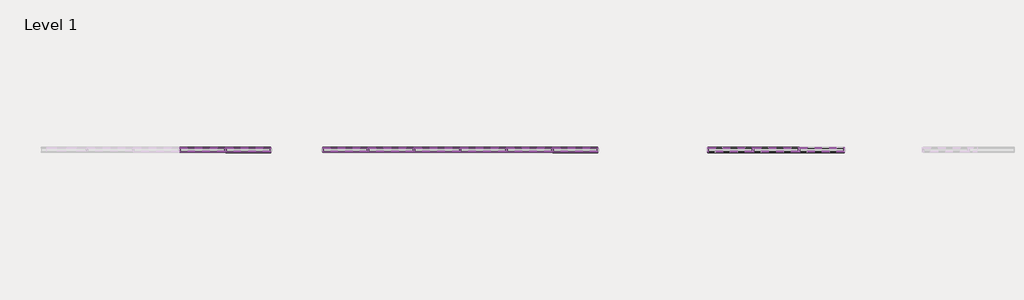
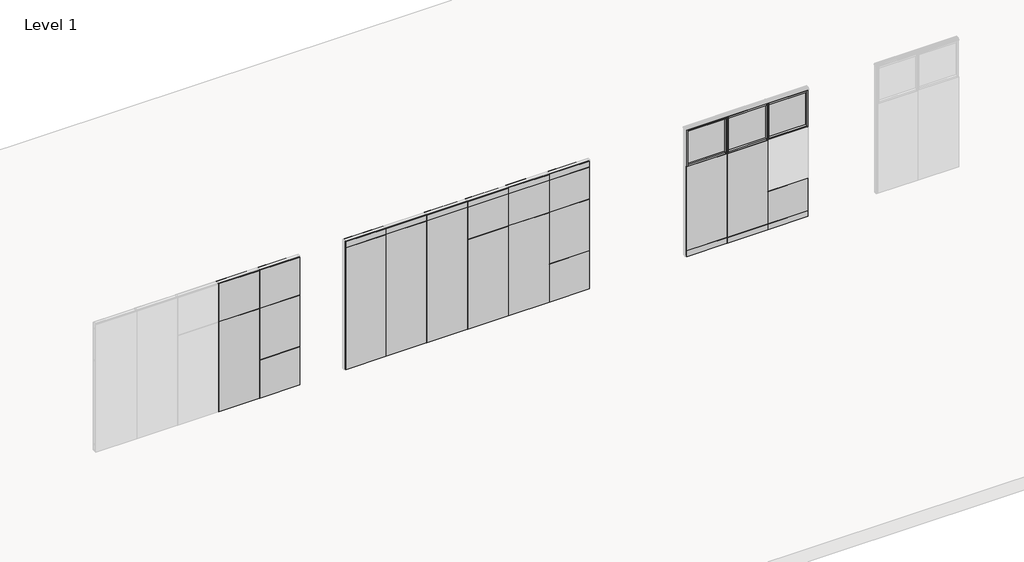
# One storey, part 16 of 22: 102 proxies.
"""IFC4 building model written with IfcOpenShell, lengths in millimetres."""

from ifc_helpers import new_model, si_unit, origin, place, context, project, spatial, transform, mapped, element, save
from components import specialty_equipment_a7725fb8, specialty_equipment_a37d2f72, fascia_teknion_ceiling_and_base_fpb1_53cd2d31, fascia_teknion_ceiling_and_base_fpb1_16c273a4, fascia_teknion_ceiling_and_base_fpb1_d476be8e, fascia_teknion_ceiling_and_base_fpb1_8e12d95e, fascia_teknion_ceiling_and_base_fpb1_b9f04170, fascia_teknion_ceiling_and_base_fpb1_0bfeef01, fascia_teknion_ceiling_and_base_fpb1_707b8d37, fascia_teknion_ceiling_and_base_fpb1_816009f4, frame_teknion_horizontal_rail_5872ae1a, frame_teknion_horizontal_rail_46ee653b, level_ii_d92933f0, level_ii_5838736d, level_ii_d9937d3a, level_ii_09c6d2e8, level_ii_766fe766, level_ii_d745e7d9, monolithic_level_i_8bdc6454, monolithic_level_i_0d422da3, monolithic_level_i_5bb2e6cc, panel_fascia_teknion_clerestory_base_fascia_level_i_78e5e170, panel_fascia_teknion_clerestory_base_fascia_level_i_735a874c, panel_fascia_teknion_clerestory_base_fascia_level_ii_e9959047, panel_fascia_teknion_clerestory_base_fascia_segmented_level_73441add, panel_fascia_teknion_clerestory_base_fascia_segmented_level_e8cfd076, panel_fascia_teknion_clerestory_base_fascia_segmented_level_bd308c10, segmented_monolithic_level_i_26a9d159, segmented_monolithic_level_i_79c8b360, segmented_monolithic_level_i_954095a9, segmented_monolithic_level_ii_ef75357c, segmented_monolithic_level_ii_44e4ae8f, segmented_monolithic_level_ii_9478e5b5, working_wall_monolithic_level_i_759ace73, working_wall_monolithic_level_i_f3196e79, working_wall_monolithic_level_i_53c92298, working_wall_monolithic_level_i_9d4bea93, working_wall_monolithic_level_i_ddf61f7f, working_wall_monolithic_level_i_49ea217e, segmented_monolithic_level_ii_062cb124, working_wall_monolithic_level_iii_b79156b4, working_wall_monolithic_level_iii_e35548a4, working_wall_monolithic_level_iii_fa76c758, working_wall_monolithic_level_iii_031ea846

model = new_model("IFC4")

# Units and contexts
model_context = context("Model", 3, world=origin())
ifc_project = project(units=[si_unit("LENGTHUNIT", "METRE", prefix="MILLI")], contexts=[model_context])

# Site, building, storey
site = spatial("IfcSite", under=ifc_project)
building = spatial("IfcBuilding", under=site)
storey = spatial("IfcBuildingStorey", under=building, Name="Level 1", Elevation=0.0)

# Proxies
placement = place(None, origin())
specialty_equipment_shape = specialty_equipment_a7725fb8(model_context)
element("IfcBuildingElementProxy", 1, Name="Panel-Clerestory-Teknion-Optos-Altos_Monolithic_Fascias : FYCG", ObjectType="Panel-Clerestory-Teknion-Optos-Altos_Monolithic_Fascias : FYCG", at=placement, inside=storey, context=model_context, shape_type="MappedRepresentation", body=[
    mapped(specialty_equipment_shape, transform((72474.5023007, 1812.3522105, 2136.775), x_axis=(1.0, 0.0, 0.0), y_axis=(0.0, 1.0, 0.0), z_axis=(0.0, 0.0, 1.0))),
])
element("IfcBuildingElementProxy", 2, Name="Panel-Clerestory-Teknion-Optos-Altos_Monolithic_Fascias : FYCG", ObjectType="Panel-Clerestory-Teknion-Optos-Altos_Monolithic_Fascias : FYCG", at=placement, inside=storey, context=model_context, shape_type="MappedRepresentation", body=[
    mapped(specialty_equipment_shape, transform((74289.312457, 1812.3522105, 2136.775), x_axis=(1.0, 0.0, 0.0), y_axis=(0.0, 1.0, 0.0), z_axis=(0.0, 0.0, 1.0))),
])
specialty_equipment_2_shape = specialty_equipment_a37d2f72(model_context)
element("IfcBuildingElementProxy", 3, Name="Panel-Clerestory-Teknion-Optos-Altos_Monolithic_Fascias : FYCG", ObjectType="Panel-Clerestory-Teknion-Optos-Altos_Monolithic_Fascias : FYCG", at=placement, inside=storey, context=model_context, shape_type="MappedRepresentation", body=[
    mapped(specialty_equipment_2_shape, transform((73381.9073788, 1812.3522105, 2136.775), x_axis=(1.0, 0.0, 0.0), y_axis=(0.0, 1.0, 0.0), z_axis=(0.0, 0.0, 1.0))),
])
fascia_teknion_ceiling_and_base_fpb1_shape = fascia_teknion_ceiling_and_base_fpb1_53cd2d31(model_context)
element("IfcBuildingElementProxy", 4, Name="Fascia-Teknion-Ceiling_and_Base : FPB1", ObjectType="Fascia-Teknion-Ceiling_and_Base : FPB1", at=placement, inside=storey, context=model_context, shape_type="MappedRepresentation", body=[
    mapped(fascia_teknion_ceiling_and_base_fpb1_shape, transform((72474.5023007, 1781.3642105, 15.875), x_axis=(1.0, 0.0, 0.0), y_axis=(0.0, 1.0, 0.0), z_axis=(0.0, 0.0, 1.0))),
])
element("IfcBuildingElementProxy", 5, Name="Fascia-Teknion-Ceiling_and_Base : FPB1", ObjectType="Fascia-Teknion-Ceiling_and_Base : FPB1", at=placement, inside=storey, context=model_context, shape_type="MappedRepresentation", body=[
    mapped(fascia_teknion_ceiling_and_base_fpb1_shape, transform((74289.312457, 1781.3642105, 15.875), x_axis=(1.0, 0.0, 0.0), y_axis=(0.0, 1.0, 0.0), z_axis=(0.0, 0.0, 1.0))),
])
fascia_teknion_ceiling_and_base_fpb1_2_shape = fascia_teknion_ceiling_and_base_fpb1_16c273a4(model_context)
element("IfcBuildingElementProxy", 6, Name="Fascia-Teknion-Ceiling_and_Base : FPB1", ObjectType="Fascia-Teknion-Ceiling_and_Base : FPB1", at=placement, inside=storey, context=model_context, shape_type="MappedRepresentation", body=[
    mapped(fascia_teknion_ceiling_and_base_fpb1_2_shape, transform((72474.5023007, 1843.3402105, 15.875), x_axis=(1.0, 0.0, 0.0), y_axis=(0.0, 1.0, 0.0), z_axis=(0.0, 0.0, 1.0))),
])
element("IfcBuildingElementProxy", 7, Name="Fascia-Teknion-Ceiling_and_Base : FPB1", ObjectType="Fascia-Teknion-Ceiling_and_Base : FPB1", at=placement, inside=storey, context=model_context, shape_type="MappedRepresentation", body=[
    mapped(fascia_teknion_ceiling_and_base_fpb1_2_shape, transform((74289.312457, 1843.3402105, 15.875), x_axis=(1.0, 0.0, 0.0), y_axis=(0.0, 1.0, 0.0), z_axis=(0.0, 0.0, 1.0))),
])
fascia_teknion_ceiling_and_base_fpb1_3_shape = fascia_teknion_ceiling_and_base_fpb1_d476be8e(model_context)
element("IfcBuildingElementProxy", 8, Name="Fascia-Teknion-Ceiling_and_Base : FPB1", ObjectType="Fascia-Teknion-Ceiling_and_Base : FPB1", at=placement, inside=storey, context=model_context, shape_type="MappedRepresentation", body=[
    mapped(fascia_teknion_ceiling_and_base_fpb1_3_shape, transform((73381.9073788, 1781.3642105, 15.875), x_axis=(1.0, 0.0, 0.0), y_axis=(0.0, 1.0, 0.0), z_axis=(0.0, 0.0, 1.0))),
])
fascia_teknion_ceiling_and_base_fpb1_4_shape = fascia_teknion_ceiling_and_base_fpb1_8e12d95e(model_context)
element("IfcBuildingElementProxy", 9, Name="Fascia-Teknion-Ceiling_and_Base : FPB1", ObjectType="Fascia-Teknion-Ceiling_and_Base : FPB1", at=placement, inside=storey, context=model_context, shape_type="MappedRepresentation", body=[
    mapped(fascia_teknion_ceiling_and_base_fpb1_4_shape, transform((73381.9073788, 1843.3402105, 15.875), x_axis=(1.0, 0.0, 0.0), y_axis=(0.0, 1.0, 0.0), z_axis=(0.0, 0.0, 1.0))),
])
fascia_teknion_ceiling_and_base_fpb1_5_shape = fascia_teknion_ceiling_and_base_fpb1_b9f04170(model_context)
element("IfcBuildingElementProxy", 10, Name="Fascia-Teknion-Ceiling_and_Base : FPC", ObjectType="Fascia-Teknion-Ceiling_and_Base : FPC", at=placement, inside=storey, context=model_context, shape_type="MappedRepresentation", body=[
    mapped(fascia_teknion_ceiling_and_base_fpb1_5_shape, transform((64843.799497, 1781.3642105, 2900.045), x_axis=(1.0, 0.0, 0.0), y_axis=(0.0, 1.0, 0.0), z_axis=(0.0, 0.0, 1.0))),
])
element("IfcBuildingElementProxy", 11, Name="Fascia-Teknion-Ceiling_and_Base : FPC", ObjectType="Fascia-Teknion-Ceiling_and_Base : FPC", at=placement, inside=storey, context=model_context, shape_type="MappedRepresentation", body=[
    mapped(fascia_teknion_ceiling_and_base_fpb1_5_shape, transform((69401.8096533, 1781.3642105, 2900.045), x_axis=(1.0, 0.0, 0.0), y_axis=(0.0, 1.0, 0.0), z_axis=(0.0, 0.0, 1.0))),
])
fascia_teknion_ceiling_and_base_fpb1_6_shape = fascia_teknion_ceiling_and_base_fpb1_0bfeef01(model_context)
element("IfcBuildingElementProxy", 12, Name="Fascia-Teknion-Ceiling_and_Base : FPC", ObjectType="Fascia-Teknion-Ceiling_and_Base : FPC", at=placement, inside=storey, context=model_context, shape_type="MappedRepresentation", body=[
    mapped(fascia_teknion_ceiling_and_base_fpb1_6_shape, transform((64843.799497, 1843.3402105, 2900.045), x_axis=(1.0, 0.0, 0.0), y_axis=(0.0, 1.0, 0.0), z_axis=(0.0, 0.0, 1.0))),
])
element("IfcBuildingElementProxy", 13, Name="Fascia-Teknion-Ceiling_and_Base : FPC", ObjectType="Fascia-Teknion-Ceiling_and_Base : FPC", at=placement, inside=storey, context=model_context, shape_type="MappedRepresentation", body=[
    mapped(fascia_teknion_ceiling_and_base_fpb1_6_shape, transform((69401.8096533, 1843.3402105, 2900.045), x_axis=(1.0, 0.0, 0.0), y_axis=(0.0, 1.0, 0.0), z_axis=(0.0, 0.0, 1.0))),
])
fascia_teknion_ceiling_and_base_fpb1_7_shape = fascia_teknion_ceiling_and_base_fpb1_707b8d37(model_context)
element("IfcBuildingElementProxy", 14, Name="Fascia-Teknion-Ceiling_and_Base : FPC", ObjectType="Fascia-Teknion-Ceiling_and_Base : FPC", at=placement, inside=storey, context=model_context, shape_type="MappedRepresentation", body=[
    mapped(fascia_teknion_ceiling_and_base_fpb1_7_shape, transform((65751.2045751, 1781.3642105, 2900.045), x_axis=(1.0, 0.0, 0.0), y_axis=(0.0, 1.0, 0.0), z_axis=(0.0, 0.0, 1.0))),
])
element("IfcBuildingElementProxy", 15, Name="Fascia-Teknion-Ceiling_and_Base : FPC", ObjectType="Fascia-Teknion-Ceiling_and_Base : FPC", at=placement, inside=storey, context=model_context, shape_type="MappedRepresentation", body=[
    mapped(fascia_teknion_ceiling_and_base_fpb1_7_shape, transform((66665.6045751, 1781.3642105, 2900.045), x_axis=(1.0, 0.0, 0.0), y_axis=(0.0, 1.0, 0.0), z_axis=(0.0, 0.0, 1.0))),
])
element("IfcBuildingElementProxy", 16, Name="Fascia-Teknion-Ceiling_and_Base : FPC", ObjectType="Fascia-Teknion-Ceiling_and_Base : FPC", at=placement, inside=storey, context=model_context, shape_type="MappedRepresentation", body=[
    mapped(fascia_teknion_ceiling_and_base_fpb1_7_shape, transform((67580.0045751, 1781.3642105, 2900.045), x_axis=(1.0, 0.0, 0.0), y_axis=(0.0, 1.0, 0.0), z_axis=(0.0, 0.0, 1.0))),
])
element("IfcBuildingElementProxy", 17, Name="Fascia-Teknion-Ceiling_and_Base : FPC", ObjectType="Fascia-Teknion-Ceiling_and_Base : FPC", at=placement, inside=storey, context=model_context, shape_type="MappedRepresentation", body=[
    mapped(fascia_teknion_ceiling_and_base_fpb1_7_shape, transform((68494.4045751, 1781.3642105, 2900.045), x_axis=(1.0, 0.0, 0.0), y_axis=(0.0, 1.0, 0.0), z_axis=(0.0, 0.0, 1.0))),
])
fascia_teknion_ceiling_and_base_fpb1_8_shape = fascia_teknion_ceiling_and_base_fpb1_816009f4(model_context)
element("IfcBuildingElementProxy", 18, Name="Fascia-Teknion-Ceiling_and_Base : FPC", ObjectType="Fascia-Teknion-Ceiling_and_Base : FPC", at=placement, inside=storey, context=model_context, shape_type="MappedRepresentation", body=[
    mapped(fascia_teknion_ceiling_and_base_fpb1_8_shape, transform((65751.2045751, 1843.3402105, 2900.045), x_axis=(1.0, 0.0, 0.0), y_axis=(0.0, 1.0, 0.0), z_axis=(0.0, 0.0, 1.0))),
])
element("IfcBuildingElementProxy", 19, Name="Fascia-Teknion-Ceiling_and_Base : FPC", ObjectType="Fascia-Teknion-Ceiling_and_Base : FPC", at=placement, inside=storey, context=model_context, shape_type="MappedRepresentation", body=[
    mapped(fascia_teknion_ceiling_and_base_fpb1_8_shape, transform((67580.0045751, 1843.3402105, 2900.045), x_axis=(1.0, 0.0, 0.0), y_axis=(0.0, 1.0, 0.0), z_axis=(0.0, 0.0, 1.0))),
])
element("IfcBuildingElementProxy", 20, Name="Fascia-Teknion-Ceiling_and_Base : FPC", ObjectType="Fascia-Teknion-Ceiling_and_Base : FPC", at=placement, inside=storey, context=model_context, shape_type="MappedRepresentation", body=[
    mapped(fascia_teknion_ceiling_and_base_fpb1_8_shape, transform((66665.6045751, 1843.3402105, 2900.045), x_axis=(1.0, 0.0, 0.0), y_axis=(0.0, 1.0, 0.0), z_axis=(0.0, 0.0, 1.0))),
])
element("IfcBuildingElementProxy", 21, Name="Fascia-Teknion-Ceiling_and_Base : FPC", ObjectType="Fascia-Teknion-Ceiling_and_Base : FPC", at=placement, inside=storey, context=model_context, shape_type="MappedRepresentation", body=[
    mapped(fascia_teknion_ceiling_and_base_fpb1_8_shape, transform((68494.4045751, 1843.3402105, 2900.045), x_axis=(1.0, 0.0, 0.0), y_axis=(0.0, 1.0, 0.0), z_axis=(0.0, 0.0, 1.0))),
])
frame_teknion_horizontal_rail_shape = frame_teknion_horizontal_rail_5872ae1a(model_context)
element("IfcBuildingElementProxy", 22, Name="Frame-Teknion-Horizontal_Rail : FPKK", ObjectType="Frame-Teknion-Horizontal_Rail : FPKK", at=placement, inside=storey, context=model_context, shape_type="MappedRepresentation", body=[
    mapped(frame_teknion_horizontal_rail_shape, transform((64843.799497, 1812.3522105, 2898.3305), x_axis=(1.0, 0.0, 0.0), y_axis=(0.0, 1.0, 0.0), z_axis=(0.0, 0.0, 1.0))),
])
element("IfcBuildingElementProxy", 23, Name="Frame-Teknion-Horizontal_Rail : FPKK", ObjectType="Frame-Teknion-Horizontal_Rail : FPKK", at=placement, inside=storey, context=model_context, shape_type="MappedRepresentation", body=[
    mapped(frame_teknion_horizontal_rail_shape, transform((69401.8096533, 1812.3522105, 917.575), x_axis=(1.0, 0.0, 0.0), y_axis=(0.0, 1.0, 0.0), z_axis=(0.0, 0.0, 1.0))),
])
element("IfcBuildingElementProxy", 24, Name="Frame-Teknion-Horizontal_Rail : FPKK", ObjectType="Frame-Teknion-Horizontal_Rail : FPKK", at=placement, inside=storey, context=model_context, shape_type="MappedRepresentation", body=[
    mapped(frame_teknion_horizontal_rail_shape, transform((69401.8096533, 1812.3522105, 2898.3305), x_axis=(1.0, 0.0, 0.0), y_axis=(0.0, 1.0, 0.0), z_axis=(0.0, 0.0, 1.0))),
])
element("IfcBuildingElementProxy", 25, Name="Frame-Teknion-Horizontal_Rail : FPKK", ObjectType="Frame-Teknion-Horizontal_Rail : FPKK", at=placement, inside=storey, context=model_context, shape_type="MappedRepresentation", body=[
    mapped(frame_teknion_horizontal_rail_shape, transform((69401.8096533, 1812.3522105, 2136.775), x_axis=(1.0, 0.0, 0.0), y_axis=(0.0, 1.0, 0.0), z_axis=(0.0, 0.0, 1.0))),
])
element("IfcBuildingElementProxy", 26, Name="Frame-Teknion-Horizontal_Rail : FPKK", ObjectType="Frame-Teknion-Horizontal_Rail : FPKK", at=placement, inside=storey, context=model_context, shape_type="MappedRepresentation", body=[
    mapped(frame_teknion_horizontal_rail_shape, transform((64843.799497, 1812.3522105, 151.257), x_axis=(1.0, 0.0, 0.0), y_axis=(0.0, 1.0, 0.0), z_axis=(0.0, 0.0, 1.0))),
])
element("IfcBuildingElementProxy", 27, Name="Frame-Teknion-Horizontal_Rail : FPKK", ObjectType="Frame-Teknion-Horizontal_Rail : FPKK", at=placement, inside=storey, context=model_context, shape_type="MappedRepresentation", body=[
    mapped(frame_teknion_horizontal_rail_shape, transform((69401.8096533, 1812.3522105, 151.257), x_axis=(1.0, 0.0, 0.0), y_axis=(0.0, 1.0, 0.0), z_axis=(0.0, 0.0, 1.0))),
])
element("IfcBuildingElementProxy", 28, Name="Frame-Teknion-Horizontal_Rail : FPKK", ObjectType="Frame-Teknion-Horizontal_Rail : FPKK", at=placement, inside=storey, context=model_context, shape_type="MappedRepresentation", body=[
    mapped(frame_teknion_horizontal_rail_shape, transform((62920.0742944, 1812.3522105, 2136.775), x_axis=(1.0, 0.0, 0.0), y_axis=(0.0, 1.0, 0.0), z_axis=(0.0, 0.0, 1.0))),
])
element("IfcBuildingElementProxy", 29, Name="Frame-Teknion-Horizontal_Rail : FPKK", ObjectType="Frame-Teknion-Horizontal_Rail : FPKK", at=placement, inside=storey, context=model_context, shape_type="MappedRepresentation", body=[
    mapped(frame_teknion_horizontal_rail_shape, transform((62920.0742944, 1812.3522105, 151.257), x_axis=(1.0, 0.0, 0.0), y_axis=(0.0, 1.0, 0.0), z_axis=(0.0, 0.0, 1.0))),
])
element("IfcBuildingElementProxy", 30, Name="Frame-Teknion-Horizontal_Rail : FPKK", ObjectType="Frame-Teknion-Horizontal_Rail : FPKK", at=placement, inside=storey, context=model_context, shape_type="MappedRepresentation", body=[
    mapped(frame_teknion_horizontal_rail_shape, transform((62920.0742944, 1812.3522105, 2898.3305), x_axis=(1.0, 0.0, 0.0), y_axis=(0.0, 1.0, 0.0), z_axis=(0.0, 0.0, 1.0))),
])
element("IfcBuildingElementProxy", 31, Name="Frame-Teknion-Horizontal_Rail : FPKK", ObjectType="Frame-Teknion-Horizontal_Rail : FPKK", at=placement, inside=storey, context=model_context, shape_type="MappedRepresentation", body=[
    mapped(frame_teknion_horizontal_rail_shape, transform((62920.0742944, 1812.3522105, 917.575), x_axis=(1.0, 0.0, 0.0), y_axis=(0.0, 1.0, 0.0), z_axis=(0.0, 0.0, 1.0))),
])
element("IfcBuildingElementProxy", 32, Name="Frame-Teknion-Horizontal_Rail : FPKK", ObjectType="Frame-Teknion-Horizontal_Rail : FPKK", at=placement, inside=storey, context=model_context, shape_type="MappedRepresentation", body=[
    mapped(frame_teknion_horizontal_rail_shape, transform((72474.5023007, 1812.3522105, 2136.775), x_axis=(1.0, 0.0, 0.0), y_axis=(0.0, 1.0, 0.0), z_axis=(0.0, 0.0, 1.0))),
])
element("IfcBuildingElementProxy", 33, Name="Frame-Teknion-Horizontal_Rail : FPKK", ObjectType="Frame-Teknion-Horizontal_Rail : FPKK", at=placement, inside=storey, context=model_context, shape_type="MappedRepresentation", body=[
    mapped(frame_teknion_horizontal_rail_shape, transform((72474.5023007, 1812.3522105, 151.257), x_axis=(1.0, 0.0, 0.0), y_axis=(0.0, 1.0, 0.0), z_axis=(0.0, 0.0, 1.0))),
])
element("IfcBuildingElementProxy", 34, Name="Frame-Teknion-Horizontal_Rail : FPKK", ObjectType="Frame-Teknion-Horizontal_Rail : FPKK", at=placement, inside=storey, context=model_context, shape_type="MappedRepresentation", body=[
    mapped(frame_teknion_horizontal_rail_shape, transform((74289.312457, 1812.3522105, 2136.775), x_axis=(1.0, 0.0, 0.0), y_axis=(0.0, 1.0, 0.0), z_axis=(0.0, 0.0, 1.0))),
])
element("IfcBuildingElementProxy", 35, Name="Frame-Teknion-Horizontal_Rail : FPKK", ObjectType="Frame-Teknion-Horizontal_Rail : FPKK", at=placement, inside=storey, context=model_context, shape_type="MappedRepresentation", body=[
    mapped(frame_teknion_horizontal_rail_shape, transform((74289.312457, 1812.3522105, 151.257), x_axis=(1.0, 0.0, 0.0), y_axis=(0.0, 1.0, 0.0), z_axis=(0.0, 0.0, 1.0))),
])
element("IfcBuildingElementProxy", 36, Name="Frame-Teknion-Horizontal_Rail : FPKK", ObjectType="Frame-Teknion-Horizontal_Rail : FPKK", at=placement, inside=storey, context=model_context, shape_type="MappedRepresentation", body=[
    mapped(frame_teknion_horizontal_rail_shape, transform((74289.312457, 1812.3522105, 917.575), x_axis=(1.0, 0.0, 0.0), y_axis=(0.0, 1.0, 0.0), z_axis=(0.0, 0.0, 1.0))),
])
element("IfcBuildingElementProxy", 37, Name="Frame-Teknion-Horizontal_Rail : FPKK", ObjectType="Frame-Teknion-Horizontal_Rail : FPKK", at=placement, inside=storey, context=model_context, shape_type="MappedRepresentation", body=[
    mapped(frame_teknion_horizontal_rail_shape, transform((72474.5023007, 1812.3522105, 100.3935), x_axis=(1.0, 0.0, 0.0), y_axis=(0.0, 1.0, 0.0), z_axis=(0.0, 0.0, 1.0))),
])
element("IfcBuildingElementProxy", 38, Name="Frame-Teknion-Horizontal_Rail : FPKK", ObjectType="Frame-Teknion-Horizontal_Rail : FPKK", at=placement, inside=storey, context=model_context, shape_type="MappedRepresentation", body=[
    mapped(frame_teknion_horizontal_rail_shape, transform((74289.312457, 1812.3522105, 100.3935), x_axis=(1.0, 0.0, 0.0), y_axis=(0.0, 1.0, 0.0), z_axis=(0.0, 0.0, 1.0))),
])
frame_teknion_horizontal_rail_2_shape = frame_teknion_horizontal_rail_46ee653b(model_context)
element("IfcBuildingElementProxy", 39, Name="Frame-Teknion-Horizontal_Rail : FPKK", ObjectType="Frame-Teknion-Horizontal_Rail : FPKK", at=placement, inside=storey, context=model_context, shape_type="MappedRepresentation", body=[
    mapped(frame_teknion_horizontal_rail_2_shape, transform((65751.2045751, 1812.3522105, 917.575), x_axis=(1.0, 0.0, 0.0), y_axis=(0.0, 1.0, 0.0), z_axis=(0.0, 0.0, 1.0))),
])
element("IfcBuildingElementProxy", 40, Name="Frame-Teknion-Horizontal_Rail : FPKK", ObjectType="Frame-Teknion-Horizontal_Rail : FPKK", at=placement, inside=storey, context=model_context, shape_type="MappedRepresentation", body=[
    mapped(frame_teknion_horizontal_rail_2_shape, transform((65751.2045751, 1812.3522105, 2898.3305), x_axis=(1.0, 0.0, 0.0), y_axis=(0.0, 1.0, 0.0), z_axis=(0.0, 0.0, 1.0))),
])
element("IfcBuildingElementProxy", 41, Name="Frame-Teknion-Horizontal_Rail : FPKK", ObjectType="Frame-Teknion-Horizontal_Rail : FPKK", at=placement, inside=storey, context=model_context, shape_type="MappedRepresentation", body=[
    mapped(frame_teknion_horizontal_rail_2_shape, transform((66665.6045751, 1812.3522105, 917.575), x_axis=(1.0, 0.0, 0.0), y_axis=(0.0, 1.0, 0.0), z_axis=(0.0, 0.0, 1.0))),
])
element("IfcBuildingElementProxy", 42, Name="Frame-Teknion-Horizontal_Rail : FPKK", ObjectType="Frame-Teknion-Horizontal_Rail : FPKK", at=placement, inside=storey, context=model_context, shape_type="MappedRepresentation", body=[
    mapped(frame_teknion_horizontal_rail_2_shape, transform((66665.6045751, 1812.3522105, 2898.3305), x_axis=(1.0, 0.0, 0.0), y_axis=(0.0, 1.0, 0.0), z_axis=(0.0, 0.0, 1.0))),
])
element("IfcBuildingElementProxy", 43, Name="Frame-Teknion-Horizontal_Rail : FPKK", ObjectType="Frame-Teknion-Horizontal_Rail : FPKK", at=placement, inside=storey, context=model_context, shape_type="MappedRepresentation", body=[
    mapped(frame_teknion_horizontal_rail_2_shape, transform((67580.0045751, 1812.3522105, 2898.3305), x_axis=(1.0, 0.0, 0.0), y_axis=(0.0, 1.0, 0.0), z_axis=(0.0, 0.0, 1.0))),
])
element("IfcBuildingElementProxy", 44, Name="Frame-Teknion-Horizontal_Rail : FPKK", ObjectType="Frame-Teknion-Horizontal_Rail : FPKK", at=placement, inside=storey, context=model_context, shape_type="MappedRepresentation", body=[
    mapped(frame_teknion_horizontal_rail_2_shape, transform((68494.4045751, 1812.3522105, 2898.3305), x_axis=(1.0, 0.0, 0.0), y_axis=(0.0, 1.0, 0.0), z_axis=(0.0, 0.0, 1.0))),
])
element("IfcBuildingElementProxy", 45, Name="Frame-Teknion-Horizontal_Rail : FPKK", ObjectType="Frame-Teknion-Horizontal_Rail : FPKK", at=placement, inside=storey, context=model_context, shape_type="MappedRepresentation", body=[
    mapped(frame_teknion_horizontal_rail_2_shape, transform((67580.0045751, 1812.3522105, 2136.775), x_axis=(1.0, 0.0, 0.0), y_axis=(0.0, 1.0, 0.0), z_axis=(0.0, 0.0, 1.0))),
])
element("IfcBuildingElementProxy", 46, Name="Frame-Teknion-Horizontal_Rail : FPKK", ObjectType="Frame-Teknion-Horizontal_Rail : FPKK", at=placement, inside=storey, context=model_context, shape_type="MappedRepresentation", body=[
    mapped(frame_teknion_horizontal_rail_2_shape, transform((68494.4045751, 1812.3522105, 2136.775), x_axis=(1.0, 0.0, 0.0), y_axis=(0.0, 1.0, 0.0), z_axis=(0.0, 0.0, 1.0))),
])
element("IfcBuildingElementProxy", 47, Name="Frame-Teknion-Horizontal_Rail : FPKK", ObjectType="Frame-Teknion-Horizontal_Rail : FPKK", at=placement, inside=storey, context=model_context, shape_type="MappedRepresentation", body=[
    mapped(frame_teknion_horizontal_rail_2_shape, transform((65751.2045751, 1812.3522105, 2136.775), x_axis=(1.0, 0.0, 0.0), y_axis=(0.0, 1.0, 0.0), z_axis=(0.0, 0.0, 1.0))),
])
element("IfcBuildingElementProxy", 48, Name="Frame-Teknion-Horizontal_Rail : FPKK", ObjectType="Frame-Teknion-Horizontal_Rail : FPKK", at=placement, inside=storey, context=model_context, shape_type="MappedRepresentation", body=[
    mapped(frame_teknion_horizontal_rail_2_shape, transform((65751.2045751, 1812.3522105, 151.257), x_axis=(1.0, 0.0, 0.0), y_axis=(0.0, 1.0, 0.0), z_axis=(0.0, 0.0, 1.0))),
])
element("IfcBuildingElementProxy", 49, Name="Frame-Teknion-Horizontal_Rail : FPKK", ObjectType="Frame-Teknion-Horizontal_Rail : FPKK", at=placement, inside=storey, context=model_context, shape_type="MappedRepresentation", body=[
    mapped(frame_teknion_horizontal_rail_2_shape, transform((66665.6045751, 1812.3522105, 2136.775), x_axis=(1.0, 0.0, 0.0), y_axis=(0.0, 1.0, 0.0), z_axis=(0.0, 0.0, 1.0))),
])
element("IfcBuildingElementProxy", 50, Name="Frame-Teknion-Horizontal_Rail : FPKK", ObjectType="Frame-Teknion-Horizontal_Rail : FPKK", at=placement, inside=storey, context=model_context, shape_type="MappedRepresentation", body=[
    mapped(frame_teknion_horizontal_rail_2_shape, transform((66665.6045751, 1812.3522105, 151.257), x_axis=(1.0, 0.0, 0.0), y_axis=(0.0, 1.0, 0.0), z_axis=(0.0, 0.0, 1.0))),
])
element("IfcBuildingElementProxy", 51, Name="Frame-Teknion-Horizontal_Rail : FPKK", ObjectType="Frame-Teknion-Horizontal_Rail : FPKK", at=placement, inside=storey, context=model_context, shape_type="MappedRepresentation", body=[
    mapped(frame_teknion_horizontal_rail_2_shape, transform((67580.0045751, 1812.3522105, 151.257), x_axis=(1.0, 0.0, 0.0), y_axis=(0.0, 1.0, 0.0), z_axis=(0.0, 0.0, 1.0))),
])
element("IfcBuildingElementProxy", 52, Name="Frame-Teknion-Horizontal_Rail : FPKK", ObjectType="Frame-Teknion-Horizontal_Rail : FPKK", at=placement, inside=storey, context=model_context, shape_type="MappedRepresentation", body=[
    mapped(frame_teknion_horizontal_rail_2_shape, transform((68494.4045751, 1812.3522105, 151.257), x_axis=(1.0, 0.0, 0.0), y_axis=(0.0, 1.0, 0.0), z_axis=(0.0, 0.0, 1.0))),
])
element("IfcBuildingElementProxy", 53, Name="Frame-Teknion-Horizontal_Rail : FPKK", ObjectType="Frame-Teknion-Horizontal_Rail : FPKK", at=placement, inside=storey, context=model_context, shape_type="MappedRepresentation", body=[
    mapped(frame_teknion_horizontal_rail_2_shape, transform((68494.4045751, 1812.3522105, 917.575), x_axis=(1.0, 0.0, 0.0), y_axis=(0.0, 1.0, 0.0), z_axis=(0.0, 0.0, 1.0))),
])
element("IfcBuildingElementProxy", 54, Name="Frame-Teknion-Horizontal_Rail : FPKK", ObjectType="Frame-Teknion-Horizontal_Rail : FPKK", at=placement, inside=storey, context=model_context, shape_type="MappedRepresentation", body=[
    mapped(frame_teknion_horizontal_rail_2_shape, transform((62012.6692163, 1812.3522105, 2136.775), x_axis=(1.0, 0.0, 0.0), y_axis=(0.0, 1.0, 0.0), z_axis=(0.0, 0.0, 1.0))),
])
element("IfcBuildingElementProxy", 55, Name="Frame-Teknion-Horizontal_Rail : FPKK", ObjectType="Frame-Teknion-Horizontal_Rail : FPKK", at=placement, inside=storey, context=model_context, shape_type="MappedRepresentation", body=[
    mapped(frame_teknion_horizontal_rail_2_shape, transform((62012.6692163, 1812.3522105, 151.257), x_axis=(1.0, 0.0, 0.0), y_axis=(0.0, 1.0, 0.0), z_axis=(0.0, 0.0, 1.0))),
])
element("IfcBuildingElementProxy", 56, Name="Frame-Teknion-Horizontal_Rail : FPKK", ObjectType="Frame-Teknion-Horizontal_Rail : FPKK", at=placement, inside=storey, context=model_context, shape_type="MappedRepresentation", body=[
    mapped(frame_teknion_horizontal_rail_2_shape, transform((62012.6692163, 1812.3522105, 2898.3305), x_axis=(1.0, 0.0, 0.0), y_axis=(0.0, 1.0, 0.0), z_axis=(0.0, 0.0, 1.0))),
])
element("IfcBuildingElementProxy", 57, Name="Frame-Teknion-Horizontal_Rail : FPKK", ObjectType="Frame-Teknion-Horizontal_Rail : FPKK", at=placement, inside=storey, context=model_context, shape_type="MappedRepresentation", body=[
    mapped(frame_teknion_horizontal_rail_2_shape, transform((62012.6692163, 1812.3522105, 917.575), x_axis=(1.0, 0.0, 0.0), y_axis=(0.0, 1.0, 0.0), z_axis=(0.0, 0.0, 1.0))),
])
element("IfcBuildingElementProxy", 58, Name="Frame-Teknion-Horizontal_Rail : FPKK", ObjectType="Frame-Teknion-Horizontal_Rail : FPKK", at=placement, inside=storey, context=model_context, shape_type="MappedRepresentation", body=[
    mapped(frame_teknion_horizontal_rail_2_shape, transform((73381.9073788, 1812.3522105, 2136.775), x_axis=(1.0, 0.0, 0.0), y_axis=(0.0, 1.0, 0.0), z_axis=(0.0, 0.0, 1.0))),
])
element("IfcBuildingElementProxy", 59, Name="Frame-Teknion-Horizontal_Rail : FPKK", ObjectType="Frame-Teknion-Horizontal_Rail : FPKK", at=placement, inside=storey, context=model_context, shape_type="MappedRepresentation", body=[
    mapped(frame_teknion_horizontal_rail_2_shape, transform((73381.9073788, 1812.3522105, 151.257), x_axis=(1.0, 0.0, 0.0), y_axis=(0.0, 1.0, 0.0), z_axis=(0.0, 0.0, 1.0))),
])
element("IfcBuildingElementProxy", 60, Name="Frame-Teknion-Horizontal_Rail : FPKK", ObjectType="Frame-Teknion-Horizontal_Rail : FPKK", at=placement, inside=storey, context=model_context, shape_type="MappedRepresentation", body=[
    mapped(frame_teknion_horizontal_rail_2_shape, transform((73381.9073788, 1812.3522105, 917.575), x_axis=(1.0, 0.0, 0.0), y_axis=(0.0, 1.0, 0.0), z_axis=(0.0, 0.0, 1.0))),
])
element("IfcBuildingElementProxy", 61, Name="Frame-Teknion-Horizontal_Rail : FPKK", ObjectType="Frame-Teknion-Horizontal_Rail : FPKK", at=placement, inside=storey, context=model_context, shape_type="MappedRepresentation", body=[
    mapped(frame_teknion_horizontal_rail_2_shape, transform((73381.9073788, 1812.3522105, 100.3935), x_axis=(1.0, 0.0, 0.0), y_axis=(0.0, 1.0, 0.0), z_axis=(0.0, 0.0, 1.0))),
])
level_ii_shape = level_ii_d92933f0(model_context)
element("IfcBuildingElementProxy", 62, Name="Panel-Fascia-Teknion-Altos-Standard : Level II", ObjectType="Panel-Fascia-Teknion-Altos-Standard : Level II", at=placement, inside=storey, context=model_context, shape_type="MappedRepresentation", body=[
    mapped(level_ii_shape, transform((62920.0742944, 1852.8652105, 917.575), x_axis=(1.0, 0.0, 0.0), y_axis=(0.0, 1.0, 0.0), z_axis=(0.0, 0.0, 1.0))),
])
level_ii_2_shape = level_ii_5838736d(model_context)
element("IfcBuildingElementProxy", 63, Name="Panel-Fascia-Teknion-Altos-Standard : Level II", ObjectType="Panel-Fascia-Teknion-Altos-Standard : Level II", at=placement, inside=storey, context=model_context, shape_type="MappedRepresentation", body=[
    mapped(level_ii_2_shape, transform((62012.6692163, 1852.8652105, 917.575), x_axis=(1.0, 0.0, 0.0), y_axis=(0.0, 1.0, 0.0), z_axis=(0.0, 0.0, 1.0))),
])
level_ii_3_shape = level_ii_d9937d3a(model_context)
element("IfcBuildingElementProxy", 64, Name="Panel-Fascia-Teknion-Altos-Standard : Level II", ObjectType="Panel-Fascia-Teknion-Altos-Standard : Level II", at=placement, inside=storey, context=model_context, shape_type="MappedRepresentation", body=[
    mapped(level_ii_3_shape, transform((62920.0742944, 1771.8392105, 917.575), x_axis=(1.0, 0.0, 0.0), y_axis=(0.0, 1.0, 0.0), z_axis=(0.0, 0.0, 1.0))),
])
level_ii_4_shape = level_ii_09c6d2e8(model_context)
element("IfcBuildingElementProxy", 65, Name="Panel-Fascia-Teknion-Altos-Standard : Level II", ObjectType="Panel-Fascia-Teknion-Altos-Standard : Level II", at=placement, inside=storey, context=model_context, shape_type="MappedRepresentation", body=[
    mapped(level_ii_4_shape, transform((66665.6045751, 1852.8652105, 917.575), x_axis=(1.0, 0.0, 0.0), y_axis=(0.0, 1.0, 0.0), z_axis=(0.0, 0.0, 1.0))),
])
element("IfcBuildingElementProxy", 66, Name="Panel-Fascia-Teknion-Altos-Standard : Level II", ObjectType="Panel-Fascia-Teknion-Altos-Standard : Level II", at=placement, inside=storey, context=model_context, shape_type="MappedRepresentation", body=[
    mapped(level_ii_4_shape, transform((68494.4045751, 1852.8652105, 917.575), x_axis=(1.0, 0.0, 0.0), y_axis=(0.0, 1.0, 0.0), z_axis=(0.0, 0.0, 1.0))),
])
level_ii_5_shape = level_ii_766fe766(model_context)
element("IfcBuildingElementProxy", 67, Name="Panel-Fascia-Teknion-Altos-Standard : Level II", ObjectType="Panel-Fascia-Teknion-Altos-Standard : Level II", at=placement, inside=storey, context=model_context, shape_type="MappedRepresentation", body=[
    mapped(level_ii_5_shape, transform((69401.8096533, 1771.8392105, 917.575), x_axis=(1.0, 0.0, 0.0), y_axis=(0.0, 1.0, 0.0), z_axis=(0.0, 0.0, 1.0))),
])
level_ii_6_shape = level_ii_d745e7d9(model_context)
element("IfcBuildingElementProxy", 68, Name="Panel-Fascia-Teknion-Altos-Standard : Level II", ObjectType="Panel-Fascia-Teknion-Altos-Standard : Level II", at=placement, inside=storey, context=model_context, shape_type="MappedRepresentation", body=[
    mapped(level_ii_6_shape, transform((69401.8096533, 1852.8652105, 917.575), x_axis=(1.0, 0.0, 0.0), y_axis=(0.0, 1.0, 0.0), z_axis=(0.0, 0.0, 1.0))),
])
monolithic_level_i_shape = monolithic_level_i_8bdc6454(model_context)
element("IfcBuildingElementProxy", 69, Name="Panel-Fascia-Teknion-Altos-Standard : Monolithic Level I", ObjectType="Panel-Fascia-Teknion-Altos-Standard : Monolithic Level I", at=placement, inside=storey, context=model_context, shape_type="MappedRepresentation", body=[
    mapped(monolithic_level_i_shape, transform((64843.799497, 1771.8392105, 12.7), x_axis=(1.0, 0.0, 0.0), y_axis=(0.0, 1.0, 0.0), z_axis=(0.0, 0.0, 1.0))),
])
monolithic_level_i_2_shape = monolithic_level_i_0d422da3(model_context)
element("IfcBuildingElementProxy", 70, Name="Panel-Fascia-Teknion-Altos-Standard : Monolithic Level I", ObjectType="Panel-Fascia-Teknion-Altos-Standard : Monolithic Level I", at=placement, inside=storey, context=model_context, shape_type="MappedRepresentation", body=[
    mapped(monolithic_level_i_2_shape, transform((64843.799497, 1852.8652105, 12.7), x_axis=(1.0, 0.0, 0.0), y_axis=(0.0, 1.0, 0.0), z_axis=(0.0, 0.0, 1.0))),
])
monolithic_level_i_3_shape = monolithic_level_i_5bb2e6cc(model_context)
element("IfcBuildingElementProxy", 71, Name="Panel-Fascia-Teknion-Altos-Standard : Monolithic Level I", ObjectType="Panel-Fascia-Teknion-Altos-Standard : Monolithic Level I", at=placement, inside=storey, context=model_context, shape_type="MappedRepresentation", body=[
    mapped(monolithic_level_i_3_shape, transform((65751.2045751, 1771.8392105, 12.7), x_axis=(1.0, 0.0, 0.0), y_axis=(0.0, 1.0, 0.0), z_axis=(0.0, 0.0, 1.0))),
])
element("IfcBuildingElementProxy", 72, Name="Panel-Fascia-Teknion-Altos-Standard : Monolithic Level I", ObjectType="Panel-Fascia-Teknion-Altos-Standard : Monolithic Level I", at=placement, inside=storey, context=model_context, shape_type="MappedRepresentation", body=[
    mapped(monolithic_level_i_3_shape, transform((66665.6045751, 1771.8392105, 12.7), x_axis=(1.0, 0.0, 0.0), y_axis=(0.0, 1.0, 0.0), z_axis=(0.0, 0.0, 1.0))),
])
panel_fascia_teknion_clerestory_base_fascia_level_i_shape = panel_fascia_teknion_clerestory_base_fascia_level_i_78e5e170(model_context)
element("IfcBuildingElementProxy", 73, Name="Panel-Fascia-Teknion-Clerestory_Base_Fascia : Level I", ObjectType="Panel-Fascia-Teknion-Clerestory_Base_Fascia : Level I", at=placement, inside=storey, context=model_context, shape_type="MappedRepresentation", body=[
    mapped(panel_fascia_teknion_clerestory_base_fascia_level_i_shape, transform((73381.9073788, 1852.8652105, 100.457), x_axis=(1.0, 0.0, 0.0), y_axis=(0.0, 1.0, 0.0), z_axis=(0.0, 0.0, 1.0))),
])
panel_fascia_teknion_clerestory_base_fascia_level_i_2_shape = panel_fascia_teknion_clerestory_base_fascia_level_i_735a874c(model_context)
element("IfcBuildingElementProxy", 74, Name="Panel-Fascia-Teknion-Clerestory_Base_Fascia : Level I", ObjectType="Panel-Fascia-Teknion-Clerestory_Base_Fascia : Level I", at=placement, inside=storey, context=model_context, shape_type="MappedRepresentation", body=[
    mapped(panel_fascia_teknion_clerestory_base_fascia_level_i_2_shape, transform((74289.312457, 1771.8392105, 151.257), x_axis=(1.0, 0.0, 0.0), y_axis=(0.0, 1.0, 0.0), z_axis=(0.0, 0.0, 1.0))),
])
panel_fascia_teknion_clerestory_base_fascia_level_ii_shape = panel_fascia_teknion_clerestory_base_fascia_level_ii_e9959047(model_context)
element("IfcBuildingElementProxy", 75, Name="Panel-Fascia-Teknion-Clerestory_Base_Fascia : Level II", ObjectType="Panel-Fascia-Teknion-Clerestory_Base_Fascia : Level II", at=placement, inside=storey, context=model_context, shape_type="MappedRepresentation", body=[
    mapped(panel_fascia_teknion_clerestory_base_fascia_level_ii_shape, transform((73381.9073788, 1852.8652105, 917.575), x_axis=(1.0, 0.0, 0.0), y_axis=(0.0, 1.0, 0.0), z_axis=(0.0, 0.0, 1.0))),
])
panel_fascia_teknion_clerestory_base_fascia_segmented_level_shape = panel_fascia_teknion_clerestory_base_fascia_segmented_level_73441add(model_context)
element("IfcBuildingElementProxy", 76, Name="Panel-Fascia-Teknion-Clerestory_Base_Fascia : Segmented Level I", ObjectType="Panel-Fascia-Teknion-Clerestory_Base_Fascia : Segmented Level I", at=placement, inside=storey, context=model_context, shape_type="MappedRepresentation", body=[
    mapped(panel_fascia_teknion_clerestory_base_fascia_segmented_level_shape, transform((72474.5023007, 1771.8392105, 151.257), x_axis=(1.0, 0.0, 0.0), y_axis=(0.0, 1.0, 0.0), z_axis=(0.0, 0.0, 1.0))),
])
panel_fascia_teknion_clerestory_base_fascia_segmented_level_2_shape = panel_fascia_teknion_clerestory_base_fascia_segmented_level_e8cfd076(model_context)
element("IfcBuildingElementProxy", 77, Name="Panel-Fascia-Teknion-Clerestory_Base_Fascia : Segmented Level I", ObjectType="Panel-Fascia-Teknion-Clerestory_Base_Fascia : Segmented Level I", at=placement, inside=storey, context=model_context, shape_type="MappedRepresentation", body=[
    mapped(panel_fascia_teknion_clerestory_base_fascia_segmented_level_2_shape, transform((72474.5023007, 1852.8652105, 100.457), x_axis=(1.0, 0.0, 0.0), y_axis=(0.0, 1.0, 0.0), z_axis=(0.0, 0.0, 1.0))),
])
panel_fascia_teknion_clerestory_base_fascia_segmented_level_3_shape = panel_fascia_teknion_clerestory_base_fascia_segmented_level_bd308c10(model_context)
element("IfcBuildingElementProxy", 78, Name="Panel-Fascia-Teknion-Clerestory_Base_Fascia : Segmented Level I", ObjectType="Panel-Fascia-Teknion-Clerestory_Base_Fascia : Segmented Level I", at=placement, inside=storey, context=model_context, shape_type="MappedRepresentation", body=[
    mapped(panel_fascia_teknion_clerestory_base_fascia_segmented_level_3_shape, transform((73381.9073788, 1771.8392105, 151.257), x_axis=(1.0, 0.0, 0.0), y_axis=(0.0, 1.0, 0.0), z_axis=(0.0, 0.0, 1.0))),
])
segmented_monolithic_level_i_shape = segmented_monolithic_level_i_26a9d159(model_context)
element("IfcBuildingElementProxy", 79, Name="Panel-Fascia-Teknion-Altos-Standard : Segmented Monolithic Level I", ObjectType="Panel-Fascia-Teknion-Altos-Standard : Segmented Monolithic Level I", at=placement, inside=storey, context=model_context, shape_type="MappedRepresentation", body=[
    mapped(segmented_monolithic_level_i_shape, transform((62012.6692163, 1771.8392105, 12.7), x_axis=(1.0, 0.0, 0.0), y_axis=(0.0, 1.0, 0.0), z_axis=(0.0, 0.0, 1.0))),
])
segmented_monolithic_level_i_2_shape = segmented_monolithic_level_i_79c8b360(model_context)
element("IfcBuildingElementProxy", 80, Name="Panel-Fascia-Teknion-Altos-Standard : Segmented Monolithic Level I", ObjectType="Panel-Fascia-Teknion-Altos-Standard : Segmented Monolithic Level I", at=placement, inside=storey, context=model_context, shape_type="MappedRepresentation", body=[
    mapped(segmented_monolithic_level_i_2_shape, transform((65751.2045751, 1852.8652105, 12.7), x_axis=(1.0, 0.0, 0.0), y_axis=(0.0, 1.0, 0.0), z_axis=(0.0, 0.0, 1.0))),
])
element("IfcBuildingElementProxy", 81, Name="Panel-Fascia-Teknion-Altos-Standard : Segmented Monolithic Level I", ObjectType="Panel-Fascia-Teknion-Altos-Standard : Segmented Monolithic Level I", at=placement, inside=storey, context=model_context, shape_type="MappedRepresentation", body=[
    mapped(segmented_monolithic_level_i_2_shape, transform((67580.0045751, 1852.8652105, 12.7), x_axis=(1.0, 0.0, 0.0), y_axis=(0.0, 1.0, 0.0), z_axis=(0.0, 0.0, 1.0))),
])
segmented_monolithic_level_i_3_shape = segmented_monolithic_level_i_954095a9(model_context)
element("IfcBuildingElementProxy", 82, Name="Panel-Fascia-Teknion-Altos-Standard : Segmented Monolithic Level I", ObjectType="Panel-Fascia-Teknion-Altos-Standard : Segmented Monolithic Level I", at=placement, inside=storey, context=model_context, shape_type="MappedRepresentation", body=[
    mapped(segmented_monolithic_level_i_3_shape, transform((67580.0045751, 1771.8392105, 12.7), x_axis=(1.0, 0.0, 0.0), y_axis=(0.0, 1.0, 0.0), z_axis=(0.0, 0.0, 1.0))),
])
element("IfcBuildingElementProxy", 83, Name="Panel-Fascia-Teknion-Altos-Standard : Segmented Monolithic Level I", ObjectType="Panel-Fascia-Teknion-Altos-Standard : Segmented Monolithic Level I", at=placement, inside=storey, context=model_context, shape_type="MappedRepresentation", body=[
    mapped(segmented_monolithic_level_i_3_shape, transform((68494.4045751, 1771.8392105, 12.7), x_axis=(1.0, 0.0, 0.0), y_axis=(0.0, 1.0, 0.0), z_axis=(0.0, 0.0, 1.0))),
])
segmented_monolithic_level_ii_shape = segmented_monolithic_level_ii_ef75357c(model_context)
element("IfcBuildingElementProxy", 84, Name="Panel-Fascia-Teknion-Altos-Standard : Segmented Monolithic Level II", ObjectType="Panel-Fascia-Teknion-Altos-Standard : Segmented Monolithic Level II", at=placement, inside=storey, context=model_context, shape_type="MappedRepresentation", body=[
    mapped(segmented_monolithic_level_ii_shape, transform((62012.6692163, 1771.8392105, 2136.775), x_axis=(1.0, 0.0, 0.0), y_axis=(0.0, 1.0, 0.0), z_axis=(0.0, 0.0, 1.0))),
])
segmented_monolithic_level_ii_2_shape = segmented_monolithic_level_ii_44e4ae8f(model_context)
element("IfcBuildingElementProxy", 85, Name="Panel-Fascia-Teknion-Altos-Standard : Segmented Monolithic Level II", ObjectType="Panel-Fascia-Teknion-Altos-Standard : Segmented Monolithic Level II", at=placement, inside=storey, context=model_context, shape_type="MappedRepresentation", body=[
    mapped(segmented_monolithic_level_ii_2_shape, transform((65751.2045751, 1852.8652105, 2136.775), x_axis=(1.0, 0.0, 0.0), y_axis=(0.0, 1.0, 0.0), z_axis=(0.0, 0.0, 1.0))),
])
element("IfcBuildingElementProxy", 86, Name="Panel-Fascia-Teknion-Altos-Standard : Segmented Monolithic Level II", ObjectType="Panel-Fascia-Teknion-Altos-Standard : Segmented Monolithic Level II", at=placement, inside=storey, context=model_context, shape_type="MappedRepresentation", body=[
    mapped(segmented_monolithic_level_ii_2_shape, transform((67580.0045751, 1852.8652105, 2136.775), x_axis=(1.0, 0.0, 0.0), y_axis=(0.0, 1.0, 0.0), z_axis=(0.0, 0.0, 1.0))),
])
segmented_monolithic_level_ii_3_shape = segmented_monolithic_level_ii_9478e5b5(model_context)
element("IfcBuildingElementProxy", 87, Name="Panel-Fascia-Teknion-Altos-Standard : Segmented Monolithic Level II", ObjectType="Panel-Fascia-Teknion-Altos-Standard : Segmented Monolithic Level II", at=placement, inside=storey, context=model_context, shape_type="MappedRepresentation", body=[
    mapped(segmented_monolithic_level_ii_3_shape, transform((68494.4045751, 1771.8392105, 2136.775), x_axis=(1.0, 0.0, 0.0), y_axis=(0.0, 1.0, 0.0), z_axis=(0.0, 0.0, 1.0))),
])
element("IfcBuildingElementProxy", 88, Name="Panel-Fascia-Teknion-Altos-Standard : Segmented Monolithic Level II", ObjectType="Panel-Fascia-Teknion-Altos-Standard : Segmented Monolithic Level II", at=placement, inside=storey, context=model_context, shape_type="MappedRepresentation", body=[
    mapped(segmented_monolithic_level_ii_3_shape, transform((67580.0045751, 1771.8392105, 2136.775), x_axis=(1.0, 0.0, 0.0), y_axis=(0.0, 1.0, 0.0), z_axis=(0.0, 0.0, 1.0))),
])
working_wall_monolithic_level_i_shape = working_wall_monolithic_level_i_759ace73(model_context)
element("IfcBuildingElementProxy", 89, Name="Panel-Fascia-Teknion-Altos-Standard : Working Wall Monolithic Level I", ObjectType="Panel-Fascia-Teknion-Altos-Standard : Working Wall Monolithic Level I", at=placement, inside=storey, context=model_context, shape_type="MappedRepresentation", body=[
    mapped(working_wall_monolithic_level_i_shape, transform((62920.0742944, 1771.8392105, 12.7), x_axis=(1.0, 0.0, 0.0), y_axis=(0.0, 1.0, 0.0), z_axis=(0.0, 0.0, 1.0))),
])
working_wall_monolithic_level_i_2_shape = working_wall_monolithic_level_i_f3196e79(model_context)
element("IfcBuildingElementProxy", 90, Name="Panel-Fascia-Teknion-Altos-Standard : Working Wall Monolithic Level I", ObjectType="Panel-Fascia-Teknion-Altos-Standard : Working Wall Monolithic Level I", at=placement, inside=storey, context=model_context, shape_type="MappedRepresentation", body=[
    mapped(working_wall_monolithic_level_i_2_shape, transform((62012.6692163, 1852.8652105, 12.7), x_axis=(1.0, 0.0, 0.0), y_axis=(0.0, 1.0, 0.0), z_axis=(0.0, 0.0, 1.0))),
])
working_wall_monolithic_level_i_3_shape = working_wall_monolithic_level_i_53c92298(model_context)
element("IfcBuildingElementProxy", 91, Name="Panel-Fascia-Teknion-Altos-Standard : Working Wall Monolithic Level I", ObjectType="Panel-Fascia-Teknion-Altos-Standard : Working Wall Monolithic Level I", at=placement, inside=storey, context=model_context, shape_type="MappedRepresentation", body=[
    mapped(working_wall_monolithic_level_i_3_shape, transform((62920.0742944, 1852.8652105, 12.7), x_axis=(1.0, 0.0, 0.0), y_axis=(0.0, 1.0, 0.0), z_axis=(0.0, 0.0, 1.0))),
])
working_wall_monolithic_level_i_4_shape = working_wall_monolithic_level_i_9d4bea93(model_context)
element("IfcBuildingElementProxy", 92, Name="Panel-Fascia-Teknion-Altos-Standard : Working Wall Monolithic Level I", ObjectType="Panel-Fascia-Teknion-Altos-Standard : Working Wall Monolithic Level I", at=placement, inside=storey, context=model_context, shape_type="MappedRepresentation", body=[
    mapped(working_wall_monolithic_level_i_4_shape, transform((66665.6045751, 1852.8652105, 12.7), x_axis=(1.0, 0.0, 0.0), y_axis=(0.0, 1.0, 0.0), z_axis=(0.0, 0.0, 1.0))),
])
element("IfcBuildingElementProxy", 93, Name="Panel-Fascia-Teknion-Altos-Standard : Working Wall Monolithic Level I", ObjectType="Panel-Fascia-Teknion-Altos-Standard : Working Wall Monolithic Level I", at=placement, inside=storey, context=model_context, shape_type="MappedRepresentation", body=[
    mapped(working_wall_monolithic_level_i_4_shape, transform((68494.4045751, 1852.8652105, 12.7), x_axis=(1.0, 0.0, 0.0), y_axis=(0.0, 1.0, 0.0), z_axis=(0.0, 0.0, 1.0))),
])
working_wall_monolithic_level_i_5_shape = working_wall_monolithic_level_i_ddf61f7f(model_context)
element("IfcBuildingElementProxy", 94, Name="Panel-Fascia-Teknion-Altos-Standard : Working Wall Monolithic Level I", ObjectType="Panel-Fascia-Teknion-Altos-Standard : Working Wall Monolithic Level I", at=placement, inside=storey, context=model_context, shape_type="MappedRepresentation", body=[
    mapped(working_wall_monolithic_level_i_5_shape, transform((69401.8096533, 1771.8392105, 12.7), x_axis=(1.0, 0.0, 0.0), y_axis=(0.0, 1.0, 0.0), z_axis=(0.0, 0.0, 1.0))),
])
working_wall_monolithic_level_i_6_shape = working_wall_monolithic_level_i_49ea217e(model_context)
element("IfcBuildingElementProxy", 95, Name="Panel-Fascia-Teknion-Altos-Standard : Working Wall Monolithic Level I", ObjectType="Panel-Fascia-Teknion-Altos-Standard : Working Wall Monolithic Level I", at=placement, inside=storey, context=model_context, shape_type="MappedRepresentation", body=[
    mapped(working_wall_monolithic_level_i_6_shape, transform((69401.8096533, 1852.8652105, 12.7), x_axis=(1.0, 0.0, 0.0), y_axis=(0.0, 1.0, 0.0), z_axis=(0.0, 0.0, 1.0))),
])
segmented_monolithic_level_ii_4_shape = segmented_monolithic_level_ii_062cb124(model_context)
element("IfcBuildingElementProxy", 96, Name="Panel-Fascia-Teknion-Altos-Standard : Working Wall Monolithic Level III", ObjectType="Panel-Fascia-Teknion-Altos-Standard : Working Wall Monolithic Level III", at=placement, inside=storey, context=model_context, shape_type="MappedRepresentation", body=[
    mapped(segmented_monolithic_level_ii_4_shape, transform((62012.6692163, 1852.8652105, 2136.775), x_axis=(1.0, 0.0, 0.0), y_axis=(0.0, 1.0, 0.0), z_axis=(0.0, 0.0, 1.0))),
])
working_wall_monolithic_level_iii_shape = working_wall_monolithic_level_iii_b79156b4(model_context)
element("IfcBuildingElementProxy", 97, Name="Panel-Fascia-Teknion-Altos-Standard : Working Wall Monolithic Level III", ObjectType="Panel-Fascia-Teknion-Altos-Standard : Working Wall Monolithic Level III", at=placement, inside=storey, context=model_context, shape_type="MappedRepresentation", body=[
    mapped(working_wall_monolithic_level_iii_shape, transform((62920.0742944, 1771.8392105, 2136.775), x_axis=(1.0, 0.0, 0.0), y_axis=(0.0, 1.0, 0.0), z_axis=(0.0, 0.0, 1.0))),
])
working_wall_monolithic_level_iii_2_shape = working_wall_monolithic_level_iii_e35548a4(model_context)
element("IfcBuildingElementProxy", 98, Name="Panel-Fascia-Teknion-Altos-Standard : Working Wall Monolithic Level III", ObjectType="Panel-Fascia-Teknion-Altos-Standard : Working Wall Monolithic Level III", at=placement, inside=storey, context=model_context, shape_type="MappedRepresentation", body=[
    mapped(working_wall_monolithic_level_iii_2_shape, transform((62920.0742944, 1852.8652105, 2136.775), x_axis=(1.0, 0.0, 0.0), y_axis=(0.0, 1.0, 0.0), z_axis=(0.0, 0.0, 1.0))),
])
element("IfcBuildingElementProxy", 99, Name="Panel-Fascia-Teknion-Altos-Standard : Working Wall Monolithic Level III", ObjectType="Panel-Fascia-Teknion-Altos-Standard : Working Wall Monolithic Level III", at=placement, inside=storey, context=model_context, shape_type="MappedRepresentation", body=[
    mapped(segmented_monolithic_level_ii_2_shape, transform((66665.6045751, 1852.8652105, 2136.775), x_axis=(1.0, 0.0, 0.0), y_axis=(0.0, 1.0, 0.0), z_axis=(0.0, 0.0, 1.0))),
])
element("IfcBuildingElementProxy", 100, Name="Panel-Fascia-Teknion-Altos-Standard : Working Wall Monolithic Level III", ObjectType="Panel-Fascia-Teknion-Altos-Standard : Working Wall Monolithic Level III", at=placement, inside=storey, context=model_context, shape_type="MappedRepresentation", body=[
    mapped(segmented_monolithic_level_ii_2_shape, transform((68494.4045751, 1852.8652105, 2136.775), x_axis=(1.0, 0.0, 0.0), y_axis=(0.0, 1.0, 0.0), z_axis=(0.0, 0.0, 1.0))),
])
working_wall_monolithic_level_iii_3_shape = working_wall_monolithic_level_iii_fa76c758(model_context)
element("IfcBuildingElementProxy", 101, Name="Panel-Fascia-Teknion-Altos-Standard : Working Wall Monolithic Level III", ObjectType="Panel-Fascia-Teknion-Altos-Standard : Working Wall Monolithic Level III", at=placement, inside=storey, context=model_context, shape_type="MappedRepresentation", body=[
    mapped(working_wall_monolithic_level_iii_3_shape, transform((69401.8096533, 1771.8392105, 2136.775), x_axis=(1.0, 0.0, 0.0), y_axis=(0.0, 1.0, 0.0), z_axis=(0.0, 0.0, 1.0))),
])
working_wall_monolithic_level_iii_4_shape = working_wall_monolithic_level_iii_031ea846(model_context)
element("IfcBuildingElementProxy", 102, Name="Panel-Fascia-Teknion-Altos-Standard : Working Wall Monolithic Level III", ObjectType="Panel-Fascia-Teknion-Altos-Standard : Working Wall Monolithic Level III", at=placement, inside=storey, context=model_context, shape_type="MappedRepresentation", body=[
    mapped(working_wall_monolithic_level_iii_4_shape, transform((69401.8096533, 1852.8652105, 2136.775), x_axis=(1.0, 0.0, 0.0), y_axis=(0.0, 1.0, 0.0), z_axis=(0.0, 0.0, 1.0))),
])

save(model, "model.ifc")
